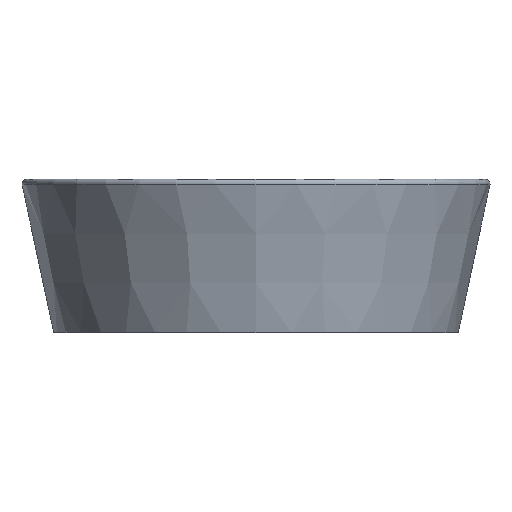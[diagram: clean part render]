
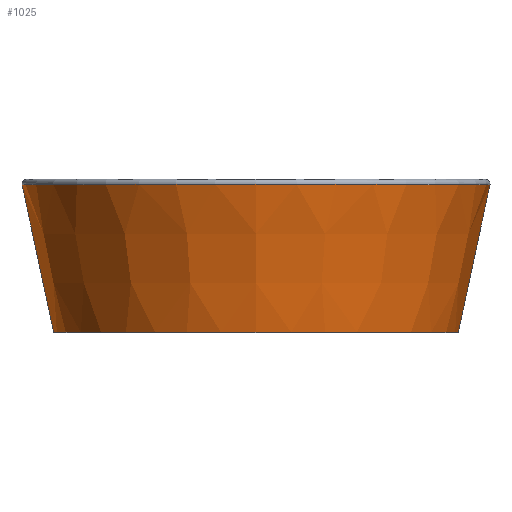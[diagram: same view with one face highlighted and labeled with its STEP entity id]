
A CAD part, top view. The second image highlights one B-rep face of the part: STEP entity #1025.
In plain terms, the highlighted conical face has half-angle 12.095 degrees and reference radius 215 mm.
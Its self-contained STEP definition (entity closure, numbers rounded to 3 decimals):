
#1 = FACE_OUTER_BOUND ( 'NONE', #972, .T. ) ;
#70 = VECTOR ( 'NONE', #1092, 1000. ) ;
#88 = ORIENTED_EDGE ( 'NONE', *, *, #749, .T. ) ;
#156 = AXIS2_PLACEMENT_3D ( 'NONE', #526, #350, #540 ) ;
#236 = EDGE_CURVE ( 'NONE', #860, #1038, #533, .T. ) ;
#284 = CONICAL_SURFACE ( 'NONE', #348, 215., 0.211 ) ;
#291 = DIRECTION ( 'NONE',  ( 0., 1., 0. ) ) ;
#298 = EDGE_CURVE ( 'NONE', #860, #542, #1110, .T. ) ;
#339 = CARTESIAN_POINT ( 'NONE',  ( 185., -140., 0. ) ) ;
#348 = AXIS2_PLACEMENT_3D ( 'NONE', #758, #291, #371 ) ;
#350 = DIRECTION ( 'NONE',  ( 0., 1., 0. ) ) ;
#362 = LINE ( 'NONE', #720, #653 ) ;
#371 = DIRECTION ( 'NONE',  ( -1., 0., 0. ) ) ;
#376 = AXIS2_PLACEMENT_3D ( 'NONE', #454, #832, #381 ) ;
#381 = DIRECTION ( 'NONE',  ( 1., 0., 0. ) ) ;
#454 = CARTESIAN_POINT ( 'NONE',  ( 0., -4.838, 0. ) ) ;
#473 = EDGE_CURVE ( 'NONE', #542, #1071, #362, .T. ) ;
#511 = ORIENTED_EDGE ( 'NONE', *, *, #473, .T. ) ;
#526 = CARTESIAN_POINT ( 'NONE',  ( 0., -140., 0. ) ) ;
#533 = LINE ( 'NONE', #700, #70 ) ;
#540 = DIRECTION ( 'NONE',  ( -1., 0., 0. ) ) ;
#542 = VERTEX_POINT ( 'NONE', #339 ) ;
#584 = CARTESIAN_POINT ( 'NONE',  ( -185., -140., 0. ) ) ;
#629 = DIRECTION ( 'NONE',  ( 0.21, 0.978, 0. ) ) ;
#653 = VECTOR ( 'NONE', #629, 1000. ) ;
#684 = ORIENTED_EDGE ( 'NONE', *, *, #236, .F. ) ;
#700 = CARTESIAN_POINT ( 'NONE',  ( -215., 0., 0. ) ) ;
#702 = CIRCLE ( 'NONE', #376, 213.963 ) ;
#720 = CARTESIAN_POINT ( 'NONE',  ( 215., 0., 0. ) ) ;
#749 = EDGE_CURVE ( 'NONE', #1071, #1038, #702, .T. ) ;
#758 = CARTESIAN_POINT ( 'NONE',  ( 0., 0., 0. ) ) ;
#832 = DIRECTION ( 'NONE',  ( 0., -1., 0. ) ) ;
#860 = VERTEX_POINT ( 'NONE', #584 ) ;
#868 = CARTESIAN_POINT ( 'NONE',  ( 213.963, -4.838, 0. ) ) ;
#879 = ORIENTED_EDGE ( 'NONE', *, *, #298, .T. ) ;
#972 = EDGE_LOOP ( 'NONE', ( #879, #511, #88, #684 ) ) ;
#1025 = ADVANCED_FACE ( 'NONE', ( #1 ), #284, .T. ) ;
#1038 = VERTEX_POINT ( 'NONE', #1116 ) ;
#1071 = VERTEX_POINT ( 'NONE', #868 ) ;
#1092 = DIRECTION ( 'NONE',  ( -0.21, 0.978, 0. ) ) ;
#1110 = CIRCLE ( 'NONE', #156, 185. ) ;
#1116 = CARTESIAN_POINT ( 'NONE',  ( -213.963, -4.838, 0. ) ) ;
